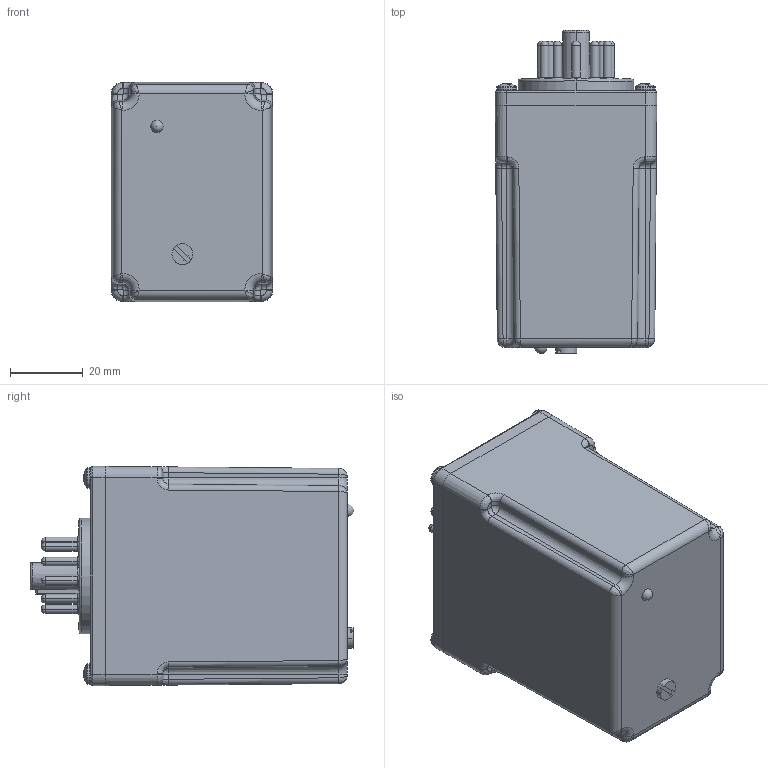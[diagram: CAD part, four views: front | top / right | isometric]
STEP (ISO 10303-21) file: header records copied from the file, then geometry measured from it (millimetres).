
FILE_DESCRIPTION(('FreeCAD Model'),'2;1');
FILE_NAME('Open CASCADE Shape Model','2023-06-06T13:08:04',(''),(''), 'Open CASCADE STEP processor 7.6','FreeCAD','Unknown');
FILE_SCHEMA(('AUTOMOTIVE_DESIGN { 1 0 10303 214 1 1 1 1 }'));
Products named in the file (1): Compound001
Bounding box: 44.45 x 88.95 x 60.33 mm (x, y, z)
Surface area: 44456 mm2 (no closed solid volume)
Topology: 0 solids, 23 shells, 1938 faces, 4783 edges, 2958 vertices
Faces by surface type: plane 597, cylinder 530, bspline 326, torus 282, revolution 140, cone 60, sphere 3
Entity records: 187140 total; most frequent: CARTESIAN_POINT 96605, DIRECTION 15083, ORIENTED_EDGE 9528, PCURVE 9528, DEFINITIONAL_REPRESENTATION 9528, LINE 8852, VECTOR 8852, EDGE_CURVE 4772
